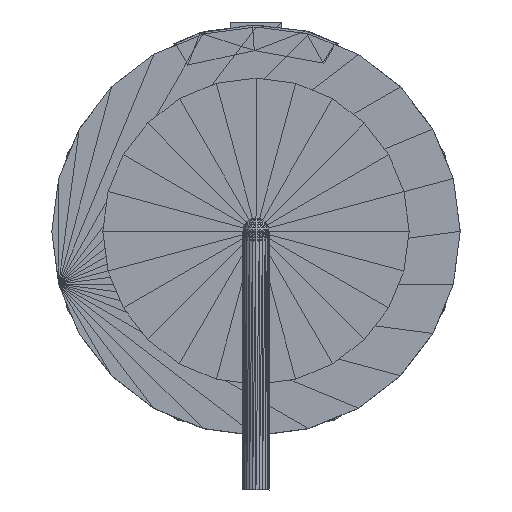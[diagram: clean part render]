
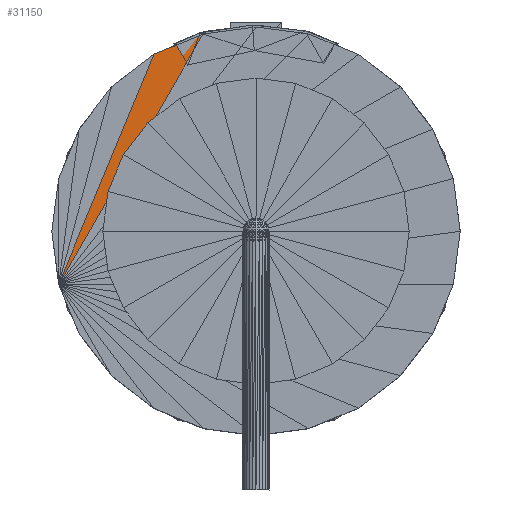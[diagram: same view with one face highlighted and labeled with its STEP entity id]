
A CAD part, left-side view. The second image highlights one B-rep face of the part: STEP entity #31150.
In plain terms, the highlighted planar face has unit normal (-1, 0, 0).
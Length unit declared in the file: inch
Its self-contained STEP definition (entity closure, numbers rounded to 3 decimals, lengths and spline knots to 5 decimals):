
#30735=CARTESIAN_POINT('',(-0.908,0.36216,0.278));
#30736=VERTEX_POINT('',#30735);
#31111=CARTESIAN_POINT('',(-0.90789,0.0969,0.73724));
#31112=VERTEX_POINT('',#31111);
#31119=CARTESIAN_POINT('',(-0.908,0.36216,0.278));
#31120=DIRECTION('',(0.,-0.5,0.866));
#31121=VECTOR('',#31120,0.53034);
#31122=LINE('',#31119,#31121);
#31123=EDGE_CURVE('',#30736,#31112,#31122,.T.);
#31128=CARTESIAN_POINT('',(-0.908,0.36216,0.278));
#31129=DIRECTION('',(-1.,0.,0.));
#31130=DIRECTION('',(0.,-0.065,0.998));
#31131=AXIS2_PLACEMENT_3D('',#31128,#31129,#31130);
#31132=PLANE('',#31131);
#31133=ORIENTED_EDGE('',*,*,#31123,.T.);
#31134=CARTESIAN_POINT('',(-0.9079,0.18736,0.69979));
#31135=VERTEX_POINT('',#31134);
#31136=CARTESIAN_POINT('',(-0.9079,0.18736,0.69979));
#31137=DIRECTION('',(0.,-0.924,0.383));
#31138=VECTOR('',#31137,0.0979);
#31139=LINE('',#31136,#31138);
#31140=EDGE_CURVE('',#31135,#31112,#31139,.T.);
#31141=ORIENTED_EDGE('',*,*,#31140,.F.);
#31142=CARTESIAN_POINT('',(-0.908,0.36216,0.278));
#31143=DIRECTION('',(0.,-0.383,0.924));
#31144=VECTOR('',#31143,0.45657);
#31145=LINE('',#31142,#31144);
#31146=EDGE_CURVE('',#30736,#31135,#31145,.T.);
#31147=ORIENTED_EDGE('',*,*,#31146,.F.);
#31148=EDGE_LOOP('',(#31133,#31141,#31147));
#31149=FACE_BOUND('',#31148,.T.);
#31150=ADVANCED_FACE('',(#31149),#31132,.T.);
